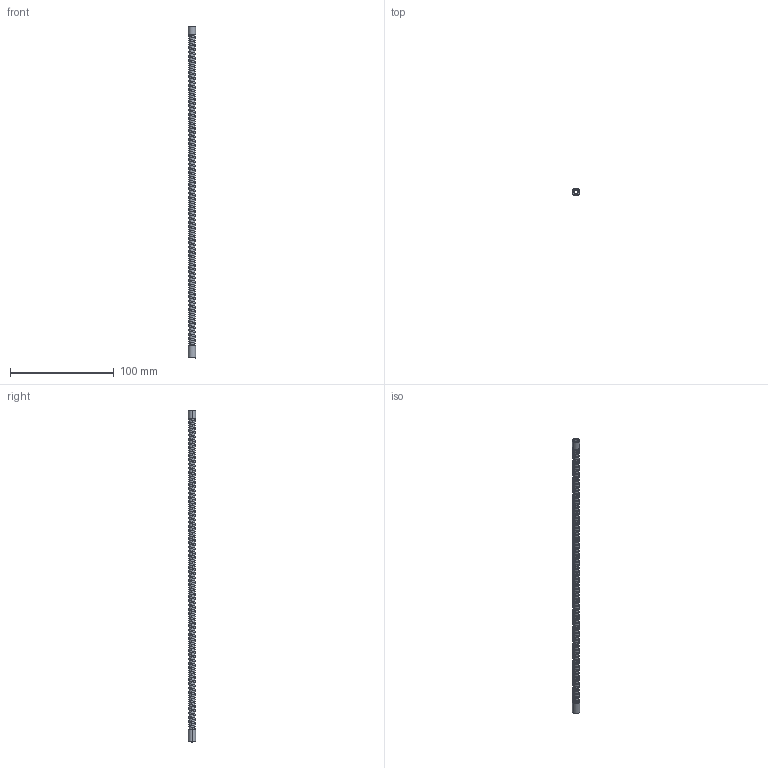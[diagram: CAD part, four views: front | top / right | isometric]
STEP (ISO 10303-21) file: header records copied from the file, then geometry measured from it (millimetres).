
FILE_DESCRIPTION (( 'STEP AP214' ), '1' );
FILE_NAME ('FTH-410.STEP', '2019-06-18T02:40:03', ( '' ), ( '' ), 'SwSTEP 2.0', 'SolidWorks 2018', '' );
FILE_SCHEMA (( 'AUTOMOTIVE_DESIGN' ));
Length unit declared in the file: millimetre
Products named in the file (1): FTH-410
Bounding box: 7 x 7 x 320 mm (x, y, z)
Volume: 4921.9 mm3; surface area: 10420.8 mm2
Topology: 1 solids, 1 shells, 299 faces, 792 edges, 498 vertices
Faces by surface type: cylinder 279, cone 7, plane 7, bspline 6
Entity records: 21879 total; most frequent: CARTESIAN_POINT 15880, ORIENTED_EDGE 1584, DIRECTION 941, EDGE_CURVE 792, VERTEX_POINT 498, AXIS2_PLACEMENT_3D 324, EDGE_LOOP 304, FACE_OUTER_BOUND 299
